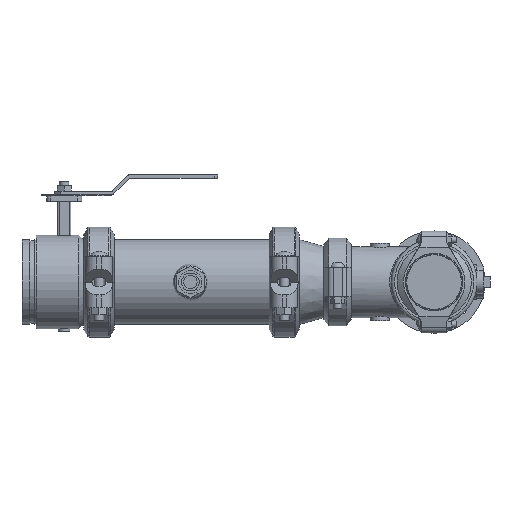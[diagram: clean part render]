
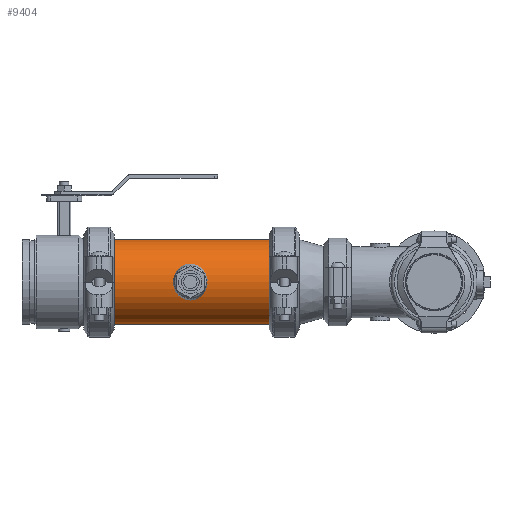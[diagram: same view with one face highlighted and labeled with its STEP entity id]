
A CAD part, left-side view. The second image highlights one B-rep face of the part: STEP entity #9404.
In plain terms, the highlighted cylindrical face has radius 84.138 mm (diameter 168.275 mm), a full revolution.
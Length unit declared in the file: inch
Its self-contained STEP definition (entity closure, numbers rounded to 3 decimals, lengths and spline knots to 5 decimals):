
#856=FACE_OUTER_BOUND('',#1440,.T.);
#1440=EDGE_LOOP('',(#7105,#7106,#7107,#7108,#7109,#7110));
#2056=CIRCLE('',#10445,3.3125);
#2057=CIRCLE('',#10446,3.3125);
#2058=CIRCLE('',#10448,3.3125);
#2059=CIRCLE('',#10449,3.3125);
#2609=LINE('',#16174,#3285);
#3285=VECTOR('',#12390,3.3125);
#4101=VERTEX_POINT('',#16165);
#4102=VERTEX_POINT('',#16166);
#4103=VERTEX_POINT('',#16170);
#4104=VERTEX_POINT('',#16171);
#5175=EDGE_CURVE('',#4101,#4102,#2056,.T.);
#5176=EDGE_CURVE('',#4102,#4101,#2057,.T.);
#5177=EDGE_CURVE('',#4103,#4104,#2058,.T.);
#5178=EDGE_CURVE('',#4104,#4103,#2059,.T.);
#5179=EDGE_CURVE('',#4104,#4102,#2609,.T.);
#7105=ORIENTED_EDGE('',*,*,#5177,.F.);
#7106=ORIENTED_EDGE('',*,*,#5178,.F.);
#7107=ORIENTED_EDGE('',*,*,#5179,.T.);
#7108=ORIENTED_EDGE('',*,*,#5176,.T.);
#7109=ORIENTED_EDGE('',*,*,#5175,.T.);
#7110=ORIENTED_EDGE('',*,*,#5179,.F.);
#8543=CYLINDRICAL_SURFACE('',#10447,3.3125);
#9404=ADVANCED_FACE('',(#856),#8543,.T.);
#10445=AXIS2_PLACEMENT_3D('',#16167,#12380,#12381);
#10446=AXIS2_PLACEMENT_3D('',#16168,#12382,#12383);
#10447=AXIS2_PLACEMENT_3D('',#16169,#12384,#12385);
#10448=AXIS2_PLACEMENT_3D('',#16172,#12386,#12387);
#10449=AXIS2_PLACEMENT_3D('',#16173,#12388,#12389);
#12380=DIRECTION('center_axis',(0.,-1.,0.));
#12381=DIRECTION('ref_axis',(1.,0.,0.));
#12382=DIRECTION('center_axis',(0.,-1.,0.));
#12383=DIRECTION('ref_axis',(1.,0.,0.));
#12384=DIRECTION('center_axis',(0.,-1.,0.));
#12385=DIRECTION('ref_axis',(1.,0.,0.));
#12386=DIRECTION('center_axis',(0.,-1.,0.));
#12387=DIRECTION('ref_axis',(1.,0.,0.));
#12388=DIRECTION('center_axis',(0.,-1.,0.));
#12389=DIRECTION('ref_axis',(1.,0.,0.));
#12390=DIRECTION('',(0.,1.,0.));
#16165=CARTESIAN_POINT('',(3.3125,6.1075,0.));
#16166=CARTESIAN_POINT('',(-3.3125,6.1075,0.));
#16167=CARTESIAN_POINT('Origin',(0.,6.1075,0.));
#16168=CARTESIAN_POINT('Origin',(0.,6.1075,0.));
#16169=CARTESIAN_POINT('Origin',(0.,0.,
0.));
#16170=CARTESIAN_POINT('',(3.3125,-6.1075,0.));
#16171=CARTESIAN_POINT('',(-3.3125,-6.1075,0.));
#16172=CARTESIAN_POINT('Origin',(0.,-6.1075,0.));
#16173=CARTESIAN_POINT('Origin',(0.,-6.1075,0.));
#16174=CARTESIAN_POINT('',(-3.3125,0.,0.));
